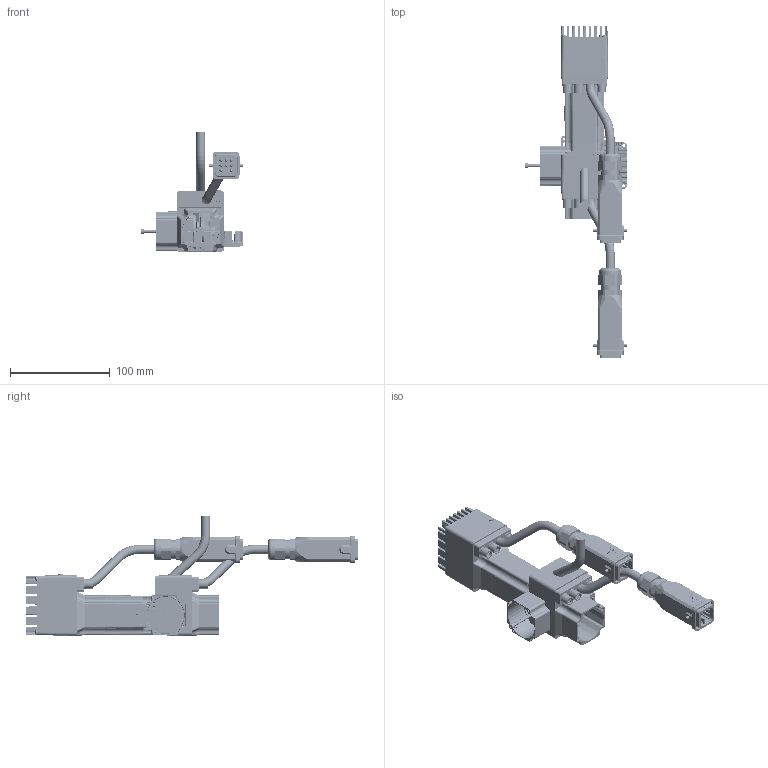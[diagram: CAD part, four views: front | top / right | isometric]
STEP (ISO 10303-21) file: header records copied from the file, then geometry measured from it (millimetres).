
FILE_DESCRIPTION( ( 'Unknown' ), '1' );
FILE_NAME( 'K:/Q0A973.stp', 'Unknown', ( 'Unknown' ), ( 'Unknown' ), 'PSStep 14.0', 'Unknown', ' ' );
FILE_SCHEMA( ( 'AUTOMOTIVE_DESIGN { 1 0 10303 214 1 1 1 1 }' ) );
Length unit declared in the file: millimetre
Products named in the file (45): 007117000802; Assem1; 003108020031; 003755102005; 005117001543; 005117001544; 005603001500; CAVO D9 N13A48; 005117000974; 005117000976; 003755102004; 003251021000; 003303000026; 005007000200; 003175000136; CUSC_7_19_6_607_ZZ; Vite a brugola testa cil 8,8 -  M  3 x 35; Vite a brugola testa cil 8,8 -  M  3 x 35-oa0; Vite a brugola testa cil 8,8 -  M  3 x 35-oa1; Vite a brugola testa cil 8,8 -  M  3 x 35-oa2; Vite a brugola testa cil 8,8 -  M 2,5 x 16; Vite a brugola testa cil 8,8 -  M 2,5 x 16-oa3; Vite a brugola testa cil 8,8 -  M 2,5 x 16-oa4; Vite a brugola testa cil 8,8 -  M 2,5 x 16-oa5; Anello OR 1 D26; Anello OR 1 D19-oa6; CUSC_10_26_8_6000_ZZ; 005009000072; VECST-8112 M  2,5 x 12; 003303000030; 003016000054; 005152000102; LI-PIA   3x3 x 15; 003003199249; 003120002004
Bounding box: 102.04 x 333.37 x 120.14 mm (x, y, z)
Volume: 387030.4 mm3; surface area: 329713.2 mm2
Topology: 101 solids, 105 shells, 12988 faces, 33532 edges, 21184 vertices
Faces by surface type: plane 6670, cylinder 4251, bspline 816, sphere 444, cone 370, torus 351, extrusion 86
Full cylindrical faces by diameter (mm): 0.226 x5, 0.296 x5, 0.95 x5, 1 x64, 1.05 x5, 1.6 x40, 1.75 x40, 1.8 x5, 2 x17, 2.013 x16, 2.025 x5, 2.05 x4, 2.25 x5, 2.459 x8, 2.5 x21, 2.6 x35, 2.8 x40, 3 x28, 3.2 x130, 3.242 x6, 3.4 x40, 4 x5, 4.2 x2, 4.5 x2, 4.7 x8, 4.75 x15, 5 x7, 5.5 x8, 6 x9, 6.917 x5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
Entity records: 168782 total; most frequent: CARTESIAN_POINT 42616, DIRECTION 20053, ORIENTED_EDGE 19366, EDGE_CURVE 9683, AXIS2_PLACEMENT_3D 7373, VERTEX_POINT 6212, VECTOR 5307, LINE 5285
